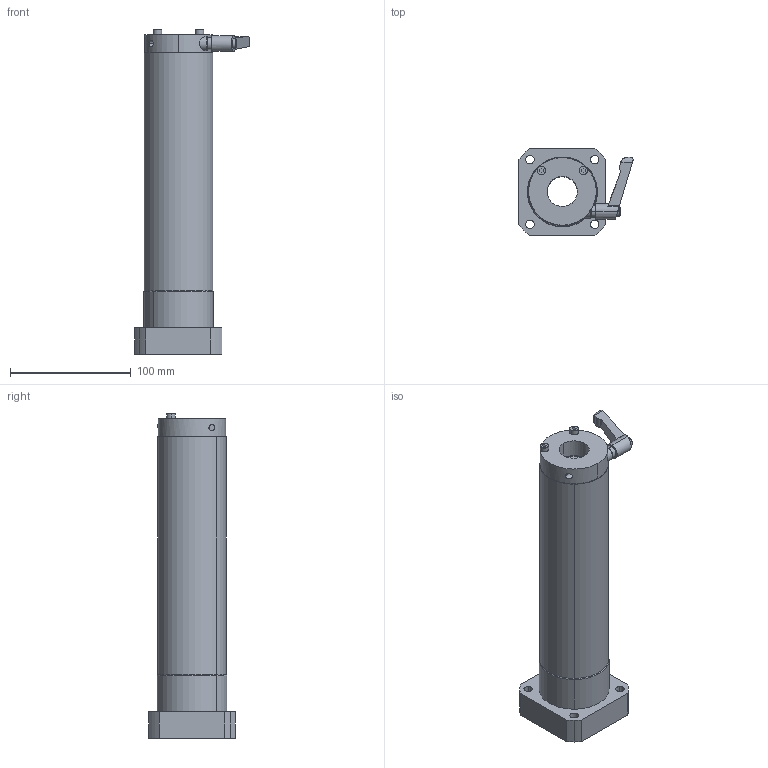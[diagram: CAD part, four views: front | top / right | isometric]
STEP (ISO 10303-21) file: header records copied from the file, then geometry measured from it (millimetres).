
FILE_DESCRIPTION (( 'STEP AP214' ), '1' );
FILE_NAME ('LFWL25BMF-CS.STEP', '2023-06-27T04:25:56', ( '' ), ( '' ), 'SwSTEP 2.0', 'SolidWorks 2019', '' );
FILE_SCHEMA (( 'AUTOMOTIVE_DESIGN' ));
Length unit declared in the file: millimetre
Products named in the file (3): LFWL25BMF; LFWL25BMF-CS; “ÁSCK2515SS-S4.5
Assembly tree (2 placements, depth 2):
  LFWL25BMF-CS
    LFWL25BMF
    “ÁSCK2515SS-S4.5
Bounding box: 94.6 x 72 x 269 mm (x, y, z)
Volume: 597450.3 mm3; surface area: 97252.3 mm2
Topology: 3 solids, 9 shells, 212 faces, 537 edges, 338 vertices
Faces by surface type: cylinder 85, plane 63, bspline 43, cone 13, torus 8
Entity records: 9381 total; most frequent: CARTESIAN_POINT 2021, DIRECTION 1138, ORIENTED_EDGE 1074, EDGE_CURVE 537, AXIS2_PLACEMENT_3D 473, VERTEX_POINT 338, CIRCLE 299, EDGE_LOOP 255
